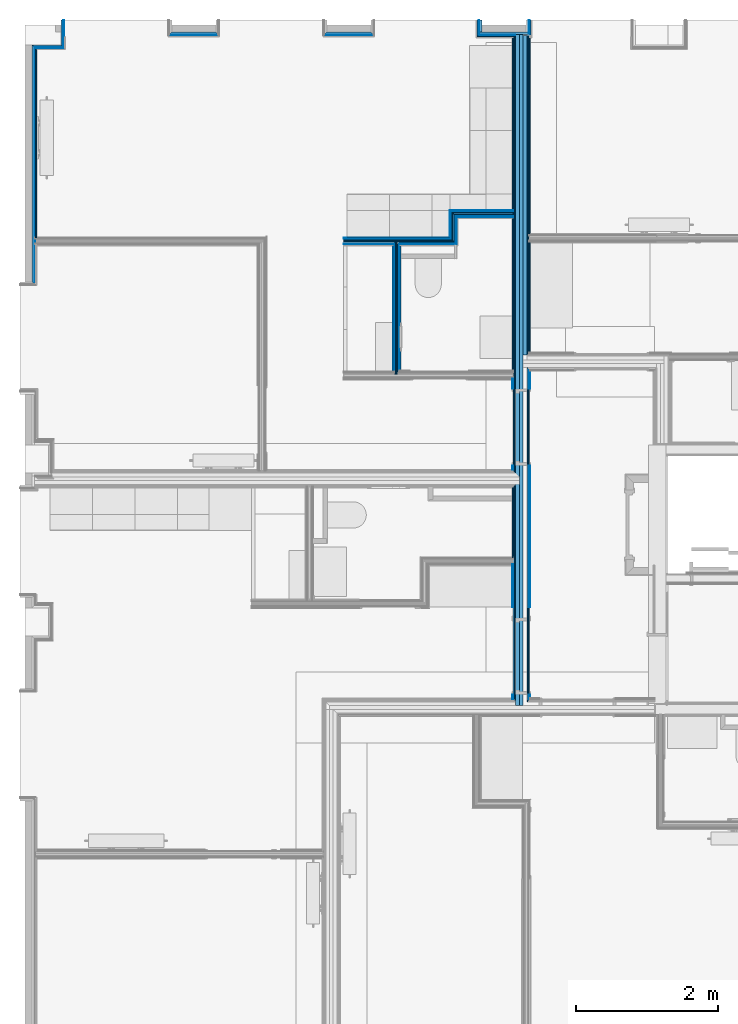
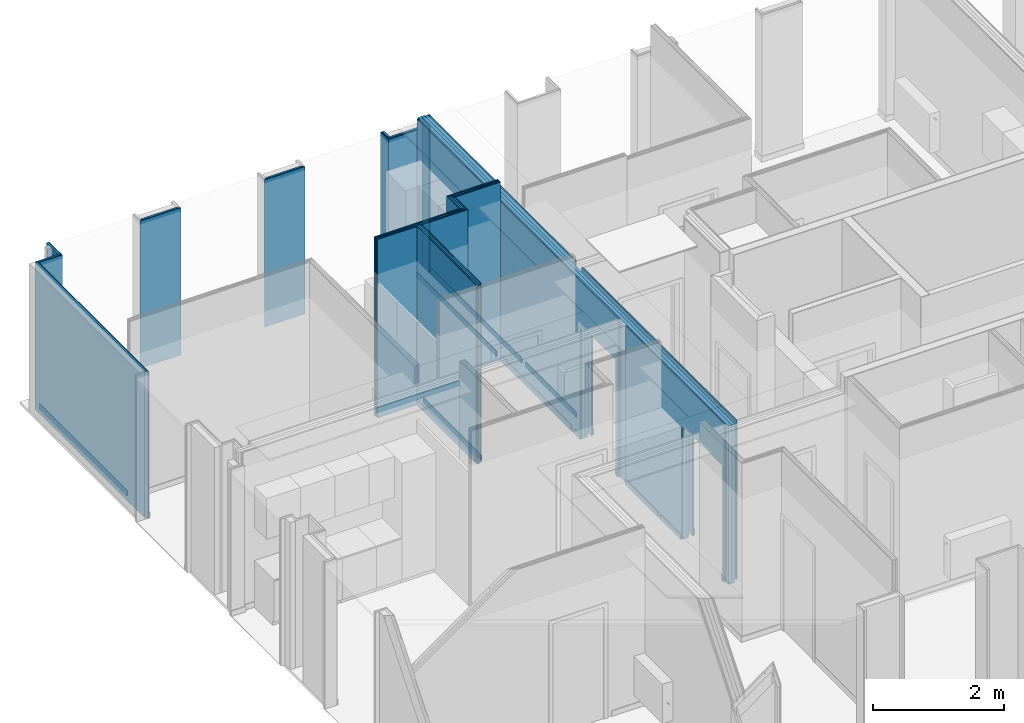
# One storey, part 17 of 65: 62 building element parts, 3 openings, 13 elements without a shape of their own.
"""IFC2X3 building model written with IfcOpenShell, lengths in metres."""

from ifc_helpers import new_model, entity, si_unit, converted_unit, derived_unit, money_unit, direction, frame, frame_2d, origin_with_axes, place, context, subcontext, project, spatial, polyline, rectangle, outline, extrude, material, type_object, element, aggregate, save


model = new_model("IFC2X3")

# Units and contexts
model_context = context("Model", 3, precision=1e-05, world=origin_with_axes(), true_north=direction((0.0, 1.0)))
body_context = subcontext(model_context, "Body", "Model", "MODEL_VIEW", scale=1.0)
ifc_project = project(units=[si_unit("LENGTHUNIT", "METRE"), si_unit("AREAUNIT", "SQUARE_METRE"), si_unit("VOLUMEUNIT", "CUBIC_METRE"), si_unit("ABSORBEDDOSEUNIT", "GRAY"), si_unit("AMOUNTOFSUBSTANCEUNIT", "MOLE"), si_unit("DOSEEQUIVALENTUNIT", "SIEVERT"), si_unit("ELECTRICCAPACITANCEUNIT", "FARAD"), si_unit("ELECTRICCHARGEUNIT", "COULOMB"), si_unit("ELECTRICCONDUCTANCEUNIT", "SIEMENS"), si_unit("ELECTRICCURRENTUNIT", "AMPERE"), si_unit("ELECTRICRESISTANCEUNIT", "OHM"), si_unit("ELECTRICVOLTAGEUNIT", "VOLT"), si_unit("ENERGYUNIT", "JOULE"), si_unit("FORCEUNIT", "NEWTON"), si_unit("FREQUENCYUNIT", "HERTZ"), si_unit("ILLUMINANCEUNIT", "LUX"), si_unit("INDUCTANCEUNIT", "HENRY"), si_unit("LUMINOUSFLUXUNIT", "LUMEN"), si_unit("LUMINOUSINTENSITYUNIT", "CANDELA"), si_unit("MAGNETICFLUXDENSITYUNIT", "TESLA"), si_unit("MAGNETICFLUXUNIT", "WEBER"), si_unit("MASSUNIT", "GRAM"), converted_unit("PLANEANGLEUNIT", "degree", entity("IfcReal", 0.0174532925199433), si_unit("PLANEANGLEUNIT", "RADIAN"), dimensions=[0, 0, 0, 0, 0, 0, 0]), si_unit("POWERUNIT", "WATT"), si_unit("PRESSUREUNIT", "PASCAL"), si_unit("RADIOACTIVITYUNIT", "BECQUEREL"), si_unit("SOLIDANGLEUNIT", "STERADIAN"), si_unit("THERMODYNAMICTEMPERATUREUNIT", "KELVIN"), si_unit("TIMEUNIT", "SECOND"), derived_unit("ACCELERATIONUNIT", [(si_unit("LENGTHUNIT", "METRE"), 1), (si_unit("TIMEUNIT", "SECOND"), -2)]), derived_unit("ANGULARVELOCITYUNIT", [(converted_unit("PLANEANGLEUNIT", "degree", entity("IfcReal", 0.0174532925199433), si_unit("PLANEANGLEUNIT", "RADIAN"), dimensions=[0, 0, 0, 0, 0, 0, 0]), 1), (si_unit("TIMEUNIT", "SECOND"), -1)]), derived_unit("CURVATUREUNIT", [(converted_unit("PLANEANGLEUNIT", "degree", entity("IfcReal", 0.0174532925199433), si_unit("PLANEANGLEUNIT", "RADIAN"), dimensions=[0, 0, 0, 0, 0, 0, 0]), 1), (si_unit("LENGTHUNIT", "METRE"), -1)]), derived_unit("DYNAMICVISCOSITYUNIT", [(si_unit("PRESSUREUNIT", "PASCAL"), 1), (si_unit("TIMEUNIT", "SECOND"), 1)]), derived_unit("HEATFLUXDENSITYUNIT", [(si_unit("POWERUNIT", "WATT"), 1), (si_unit("LENGTHUNIT", "METRE"), -2)]), derived_unit("HEATINGVALUEUNIT", [(si_unit("ENERGYUNIT", "JOULE"), 1), (si_unit("MASSUNIT", "GRAM"), -1)]), derived_unit("INTEGERCOUNTRATEUNIT", [(si_unit("TIMEUNIT", "SECOND"), -1)]), derived_unit("IONCONCENTRATIONUNIT", [(si_unit("MASSUNIT", "GRAM"), 1), (si_unit("VOLUMEUNIT", "CUBIC_METRE"), -1)]), derived_unit("ISOTHERMALMOISTURECAPACITYUNIT", [(si_unit("VOLUMEUNIT", "CUBIC_METRE"), 1), (si_unit("MASSUNIT", "GRAM"), -1)]), derived_unit("KINEMATICVISCOSITYUNIT", [(si_unit("AREAUNIT", "SQUARE_METRE"), 1), (si_unit("TIMEUNIT", "SECOND"), -1)]), derived_unit("LINEARFORCEUNIT", [(si_unit("FORCEUNIT", "NEWTON"), 1), (si_unit("LENGTHUNIT", "METRE"), -1)]), derived_unit("LINEARMOMENTUNIT", [(si_unit("FORCEUNIT", "NEWTON"), 1), (si_unit("LENGTHUNIT", "METRE"), -1)]), derived_unit("LINEARSTIFFNESSUNIT", [(si_unit("FORCEUNIT", "NEWTON"), 1), (si_unit("LENGTHUNIT", "METRE"), -1)]), derived_unit("LINEARVELOCITYUNIT", [(si_unit("LENGTHUNIT", "METRE"), 1), (si_unit("TIMEUNIT", "SECOND"), -1)]), derived_unit("LUMINOUSINTENSITYDISTRIBUTIONUNIT", [(si_unit("LUMINOUSINTENSITYUNIT", "CANDELA"), 1), (si_unit("LUMINOUSFLUXUNIT", "LUMEN"), -1)]), derived_unit("MASSDENSITYUNIT", [(si_unit("MASSUNIT", "GRAM"), 1), (si_unit("VOLUMEUNIT", "CUBIC_METRE"), -1)]), derived_unit("MASSFLOWRATEUNIT", [(si_unit("MASSUNIT", "GRAM"), 1), (si_unit("TIMEUNIT", "SECOND"), -1)]), derived_unit("MASSPERLENGTHUNIT", [(si_unit("MASSUNIT", "GRAM"), 1), (si_unit("LENGTHUNIT", "METRE"), -1)]), derived_unit("MODULUSOFELASTICITYUNIT", [(si_unit("FORCEUNIT", "NEWTON"), 1), (si_unit("AREAUNIT", "SQUARE_METRE"), -1)]), derived_unit("MODULUSOFLINEARSUBGRADEREACTIONUNIT", [(si_unit("FORCEUNIT", "NEWTON"), 1), (si_unit("LENGTHUNIT", "METRE"), -2)]), derived_unit("MODULUSOFROTATIONALSUBGRADEREACTIONUNIT", [(si_unit("FORCEUNIT", "NEWTON"), 1), (si_unit("LENGTHUNIT", "METRE"), 1)]), derived_unit("MODULUSOFSUBGRADEREACTIONUNIT", [(si_unit("FORCEUNIT", "NEWTON"), 1), (si_unit("VOLUMEUNIT", "CUBIC_METRE"), -1)]), derived_unit("MOISTUREDIFFUSIVITYUNIT", [(si_unit("VOLUMEUNIT", "CUBIC_METRE"), 1), (si_unit("TIMEUNIT", "SECOND"), -1)]), derived_unit("MOLECULARWEIGHTUNIT", [(si_unit("MASSUNIT", "GRAM"), 1), (si_unit("AMOUNTOFSUBSTANCEUNIT", "MOLE"), -1)]), derived_unit("PLANARFORCEUNIT", [(si_unit("FORCEUNIT", "NEWTON"), 1), (si_unit("LENGTHUNIT", "METRE"), -2)]), derived_unit("ROTATIONALFREQUENCYUNIT", [(si_unit("TIMEUNIT", "SECOND"), -1)]), derived_unit("ROTATIONALMASSUNIT", [(si_unit("MASSUNIT", "GRAM"), 1), (si_unit("LENGTHUNIT", "METRE"), 2)]), derived_unit("ROTATIONALSTIFFNESSUNIT", [(si_unit("FORCEUNIT", "NEWTON"), 1), (si_unit("LENGTHUNIT", "METRE"), 1), (converted_unit("PLANEANGLEUNIT", "degree", entity("IfcReal", 0.0174532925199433), si_unit("PLANEANGLEUNIT", "RADIAN"), dimensions=[0, 0, 0, 0, 0, 0, 0]), -1)]), derived_unit("SECTIONAREAINTEGRALUNIT", [(si_unit("LENGTHUNIT", "METRE"), 5)]), derived_unit("SECTIONMODULUSUNIT", [(si_unit("LENGTHUNIT", "METRE"), 3)]), derived_unit("SHEARMODULUSUNIT", [(si_unit("FORCEUNIT", "NEWTON"), 1), (si_unit("AREAUNIT", "SQUARE_METRE"), -1)]), derived_unit("SOUNDPOWERUNIT", [(si_unit("ENERGYUNIT", "JOULE"), 1), (si_unit("TIMEUNIT", "SECOND"), -1)]), derived_unit("SPECIFICHEATCAPACITYUNIT", [(si_unit("FORCEUNIT", "NEWTON"), 1), (si_unit("MASSUNIT", "GRAM"), -1), (si_unit("THERMODYNAMICTEMPERATUREUNIT", "KELVIN"), -1)]), derived_unit("TEMPERATUREGRADIENTUNIT", [(si_unit("THERMODYNAMICTEMPERATUREUNIT", "KELVIN"), 1), (si_unit("LENGTHUNIT", "METRE"), -1)]), derived_unit("THERMALADMITTANCEUNIT", [(si_unit("POWERUNIT", "WATT"), 1), (si_unit("AREAUNIT", "SQUARE_METRE"), -1), (si_unit("THERMODYNAMICTEMPERATUREUNIT", "KELVIN"), -1)]), derived_unit("THERMALCONDUCTANCEUNIT", [(si_unit("POWERUNIT", "WATT"), 1), (si_unit("LENGTHUNIT", "METRE"), -1), (si_unit("THERMODYNAMICTEMPERATUREUNIT", "KELVIN"), -1)]), derived_unit("THERMALEXPANSIONCOEFFICIENTUNIT", [(si_unit("THERMODYNAMICTEMPERATUREUNIT", "KELVIN"), -1)]), derived_unit("THERMALRESISTANCEUNIT", [(si_unit("AREAUNIT", "SQUARE_METRE"), 1), (si_unit("POWERUNIT", "WATT"), -1)]), derived_unit("THERMALTRANSMITTANCEUNIT", [(si_unit("POWERUNIT", "WATT"), 1), (si_unit("AREAUNIT", "SQUARE_METRE"), -1), (si_unit("THERMODYNAMICTEMPERATUREUNIT", "KELVIN"), -1)]), derived_unit("TORQUEUNIT", [(si_unit("FORCEUNIT", "NEWTON"), 1), (si_unit("LENGTHUNIT", "METRE"), 1)]), derived_unit("VAPORPERMEABILITYUNIT", [(si_unit("MASSUNIT", "GRAM"), 1), (si_unit("TIMEUNIT", "SECOND"), -1)]), derived_unit("VOLUMETRICFLOWRATEUNIT", [(si_unit("VOLUMEUNIT", "CUBIC_METRE"), 1), (si_unit("TIMEUNIT", "SECOND"), -1)]), derived_unit("WARPINGCONSTANTUNIT", [(si_unit("LENGTHUNIT", "METRE"), 6)]), derived_unit("WARPINGMOMENTUNIT", [(si_unit("FORCEUNIT", "NEWTON"), 1), (si_unit("LENGTHUNIT", "METRE"), 2)]), money_unit("GBP")], contexts=[model_context])

# Site, building, storey
site_placement = place(None, origin_with_axes())
site = spatial("IfcSite", under=ifc_project, at=site_placement, Name="Site", CompositionType="ELEMENT")
building_placement = place(site_placement, origin_with_axes())
building = spatial("IfcBuilding", under=site, at=building_placement, Name="Building01", CompositionType="ELEMENT")
storey_placement = place(building_placement, frame((0.0, 0.0, 8.64), z_axis=(0.0, 0.0, 1.0), x_axis=(1.0, 0.0, 0.0)))
storey = spatial("IfcBuildingStorey", under=building, at=storey_placement, Name="2F", CompositionType="ELEMENT", Elevation=8.64)

# Wall, building element parts
wall_type_1 = type_object("IfcWallType", Name="SHE_A-Walls_Type06d_ExternalWallInsulation_48mm", PredefinedType="NOTDEFINED")
wall_1_placement = place(storey_placement, frame((0.677, 14.8, 0.0), z_axis=(0.0, 0.0, 1.0), x_axis=(0.0, -1.0, 0.0)))
wall_1 = element("IfcWall", 1, at=wall_1_placement, inside=storey, type_object=wall_type_1, Name="6D", ObjectType="SHE_A-Walls_Type06d_ExternalWallInsulation_48mm")
ifc_material_1 = material(Name="A_BSUK_Insulation")
placement_1 = place(wall_1_placement, origin_with_axes())
building_element_part_1 = element("IfcBuildingElementPart", 2, at=placement_1, material=ifc_material_1, Name="1", context=body_context, shape_type="SweptSolid", body=[
    extrude(outline(polyline([(0.386, 0.036), (0.0, 0.036), (0.0, 0.0), (0.35, 0.0), (0.386, 0.036)])), origin_with_axes(), (0.0, 0.0, 1.0), 2.74),
])
ifc_material_2 = material(Name="A_BSUK_WallInternal_Finishes_Plasterboard")
building_element_part_2 = element("IfcBuildingElementPart", 3, at=placement_1, material=ifc_material_2, Name="2", context=body_context, shape_type="SweptSolid", body=[
    extrude(outline(polyline([(0.398, 0.048), (0.0, 0.048), (0.0, 0.035), (0.385, 0.035), (0.398, 0.048)])), origin_with_axes(), (0.0, 0.0, 1.0), 2.74),
])
aggregate(wall_1, [building_element_part_1, building_element_part_2])

wall_2_placement = place(storey_placement, frame((0.677, 14.45, 0.0), z_axis=(0.0, 0.0, 1.0), x_axis=(-1.0, 0.0, 0.0)))
wall_2 = element("IfcWall", 4, at=wall_2_placement, inside=storey, type_object=wall_type_1, Name="6D", ObjectType="SHE_A-Walls_Type06d_ExternalWallInsulation_48mm")
placement_2 = place(wall_2_placement, origin_with_axes())
building_element_part_3 = element("IfcBuildingElementPart", 5, at=placement_2, material=ifc_material_1, Name="1", context=body_context, shape_type="SweptSolid", body=[
    extrude(outline(polyline([(0.371, 0.036), (-0.036, 0.036), (0.0, 0.0), (0.407, 0.0), (0.371, 0.036)])), origin_with_axes(), (0.0, 0.0, 1.0), 2.74),
])
building_element_part_4 = element("IfcBuildingElementPart", 6, at=placement_2, material=ifc_material_2, Name="2", context=body_context, shape_type="SweptSolid", body=[
    extrude(outline(polyline([(0.359, 0.048), (-0.048, 0.048), (-0.035, 0.035), (0.372, 0.035), (0.359, 0.048)])), origin_with_axes(), (0.0, 0.0, 1.0), 2.74),
])
aggregate(wall_2, [building_element_part_3, building_element_part_4])

wall_3_placement = place(storey_placement, frame((2.867, 14.63, 0.0), z_axis=(0.0, 0.0, 1.0), x_axis=(-1.0, 0.0, 0.0)))
wall_3 = element("IfcWall", 7, at=wall_3_placement, inside=storey, type_object=wall_type_1, Name="6D", ObjectType="SHE_A-Walls_Type06d_ExternalWallInsulation_48mm")
placement_3 = place(wall_3_placement, origin_with_axes())
building_element_part_5 = element("IfcBuildingElementPart", 8, at=placement_3, material=ifc_material_1, Name="1", context=body_context, shape_type="SweptSolid", body=[
    extrude(outline(polyline([(0.66, 0.036), (-0.036, 0.036), (0.0, 0.0), (0.624, 0.0), (0.66, 0.036)])), origin_with_axes(), (0.0, 0.0, 1.0), 2.74),
])
building_element_part_6 = element("IfcBuildingElementPart", 9, at=placement_3, material=ifc_material_2, Name="2", context=body_context, shape_type="SweptSolid", body=[
    extrude(outline(polyline([(0.672, 0.048), (-0.048, 0.048), (-0.035, 0.035), (0.659, 0.035), (0.672, 0.048)])), origin_with_axes(), (0.0, 0.0, 1.0), 2.74),
])
aggregate(wall_3, [building_element_part_5, building_element_part_6])

wall_4_placement = place(storey_placement, frame((5.057, 14.63, 0.0), z_axis=(0.0, 0.0, 1.0), x_axis=(-1.0, 0.0, 0.0)))
wall_4 = element("IfcWall", 10, at=wall_4_placement, inside=storey, type_object=wall_type_1, Name="6D", ObjectType="SHE_A-Walls_Type06d_ExternalWallInsulation_48mm")
placement_4 = place(wall_4_placement, origin_with_axes())
building_element_part_7 = element("IfcBuildingElementPart", 11, at=placement_4, material=ifc_material_1, Name="1", context=body_context, shape_type="SweptSolid", body=[
    extrude(outline(polyline([(0.66, 0.036), (-0.036, 0.036), (0.0, 0.0), (0.624, 0.0), (0.66, 0.036)])), origin_with_axes(), (0.0, 0.0, 1.0), 2.74),
])
building_element_part_8 = element("IfcBuildingElementPart", 12, at=placement_4, material=ifc_material_2, Name="2", context=body_context, shape_type="SweptSolid", body=[
    extrude(outline(polyline([(0.672, 0.048), (-0.048, 0.048), (-0.035, 0.035), (0.659, 0.035), (0.672, 0.048)])), origin_with_axes(), (0.0, 0.0, 1.0), 2.74),
])
aggregate(wall_4, [building_element_part_7, building_element_part_8])

wall_5_placement = place(storey_placement, frame((0.27, 14.45, 0.0), z_axis=(0.0, 0.0, 1.0), x_axis=(0.0, -1.0, 0.0)))
wall_5 = element("IfcWall", 13, at=wall_5_placement, inside=storey, type_object=wall_type_1, Name="6D", ObjectType="SHE_A-Walls_Type06d_ExternalWallInsulation_48mm")
placement_5 = place(wall_5_placement, origin_with_axes())
building_element_part_9 = element("IfcBuildingElementPart", 14, at=placement_5, material=ifc_material_1, Name="1", context=body_context, shape_type="SweptSolid", body=[
    extrude(outline(polyline([(3.383, 0.036), (0.036, 0.036), (0.0, 0.0), (3.347, 0.0), (3.383, 0.036)])), origin_with_axes(), (0.0, 0.0, 1.0), 2.74),
])
building_element_part_10 = element("IfcBuildingElementPart", 15, at=placement_5, material=ifc_material_2, Name="2", context=body_context, shape_type="SweptSolid", body=[
    extrude(outline(polyline([(3.395, 0.048), (0.048, 0.048), (0.035, 0.035), (3.382, 0.035), (3.395, 0.048)])), origin_with_axes(), (0.0, 0.0, 1.0), 2.74),
])
ifc_material_3 = material(Name="A_BSUK_Walls_Timber")
building_element_part_11 = element("IfcBuildingElementPart", 16, at=placement_5, material=ifc_material_3, Name="3", context=body_context, shape_type="SweptSolid", body=[
    extrude(outline(polyline([(2.72433, 0.063), (0.063, 0.063), (0.048, 0.048), (2.72433, 0.048), (2.72433, 0.063)])), frame((0.0, 0.0, 0.015), z_axis=(0.0, 0.0, 1.0), x_axis=(1.0, 0.0, 0.0)), (0.0, 0.0, 1.0), 0.1),
])
aggregate(wall_5, [building_element_part_9, building_element_part_10, building_element_part_11])

wall_type_2 = type_object("IfcWallType", Name="SHE_A-Walls_Type05a_Partition_95mm_tall", PredefinedType="NOTDEFINED")
wall_6_placement = place(storey_placement, frame((6.229669, 11.66567, 0.0), z_axis=(0.0, 0.0, 1.0), x_axis=(0.0, 1.0, 0.0)))
wall_6 = element("IfcWall", 17, at=wall_6_placement, inside=storey, type_object=wall_type_2, Name="5A", ObjectType="SHE_A-Walls_Type05a_Partition_95mm_tall")
placement_6 = place(wall_6_placement, origin_with_axes())
building_element_part_12 = element("IfcBuildingElementPart", 18, at=placement_6, material=ifc_material_2, Name="2", context=body_context, shape_type="SweptSolid", body=[
    extrude(outline(polyline([(0.35, -0.023), (-0.023, -0.023), (-0.035, -0.035), (0.35, -0.035), (0.35, -0.023)])), origin_with_axes(), (0.0, 0.0, 1.0), 3.32),
])
ifc_material_4 = material(Name="Air Cavity")
building_element_part_13 = element("IfcBuildingElementPart", 19, at=placement_6, material=ifc_material_4, Name="3", context=body_context, shape_type="SweptSolid", body=[
    extrude(outline(polyline([(0.35, 0.0), (0.0, 0.0), (-0.023, -0.023), (0.35, -0.023), (0.35, 0.0)])), origin_with_axes(), (0.0, 0.0, 1.0), 3.32),
])
building_element_part_14 = element("IfcBuildingElementPart", 20, at=placement_6, material=ifc_material_1, Name="4", context=body_context, shape_type="SweptSolid", body=[
    extrude(outline(polyline([(0.41, 0.025), (0.025, 0.025), (0.0, 0.0), (0.385, 0.0), (0.41, 0.025)])), origin_with_axes(), (0.0, 0.0, 1.0), 3.32),
])
building_element_part_15 = element("IfcBuildingElementPart", 21, at=placement_6, material=ifc_material_4, Name="5", context=body_context, shape_type="SweptSolid", body=[
    extrude(outline(polyline([(0.433, 0.048), (0.048, 0.048), (0.025, 0.025), (0.41, 0.025), (0.433, 0.048)])), origin_with_axes(), (0.0, 0.0, 1.0), 3.32),
])
building_element_part_16 = element("IfcBuildingElementPart", 22, at=placement_6, material=ifc_material_2, Name="6", context=body_context, shape_type="SweptSolid", body=[
    extrude(outline(polyline([(0.445, 0.06), (0.06, 0.06), (0.048, 0.048), (0.433, 0.048), (0.445, 0.06)])), origin_with_axes(), (0.0, 0.0, 1.0), 3.32),
])
aggregate(wall_6, [building_element_part_12, building_element_part_13, building_element_part_14, building_element_part_15, building_element_part_16])

wall_7_placement = place(storey_placement, frame((6.229669, 12.05067, 0.0), z_axis=(0.0, 0.0, 1.0), x_axis=(1.0, 0.0, 0.0)))
wall_7 = element("IfcWall", 23, at=wall_7_placement, inside=storey, type_object=wall_type_2, Name="5A", ObjectType="SHE_A-Walls_Type05a_Partition_95mm_tall")
placement_7 = place(wall_7_placement, origin_with_axes())
building_element_part_17 = element("IfcBuildingElementPart", 24, at=placement_7, material=ifc_material_2, Name="2", context=body_context, shape_type="SweptSolid", body=[
    extrude(rectangle(XDim=0.812, YDim=0.012, at=frame_2d((0.429, -0.029), x_axis=(-1.0, 0.0))), origin_with_axes(), (0.0, 0.0, 1.0), 3.32),
])
building_element_part_18 = element("IfcBuildingElementPart", 25, at=placement_7, material=ifc_material_4, Name="3", context=body_context, shape_type="SweptSolid", body=[
    extrude(rectangle(XDim=0.812, YDim=0.023, at=frame_2d((0.429, -0.0115), x_axis=(-1.0, 0.0))), origin_with_axes(), (0.0, 0.0, 1.0), 3.32),
])
building_element_part_19 = element("IfcBuildingElementPart", 26, at=placement_7, material=ifc_material_1, Name="4", context=body_context, shape_type="SweptSolid", body=[
    extrude(outline(polyline([(0.835, 0.025), (-0.025, 0.025), (0.0, 0.0), (0.835, 0.0), (0.835, 0.025)])), origin_with_axes(), (0.0, 0.0, 1.0), 3.32),
])
building_element_part_20 = element("IfcBuildingElementPart", 27, at=placement_7, material=ifc_material_4, Name="5", context=body_context, shape_type="SweptSolid", body=[
    extrude(outline(polyline([(0.835, 0.048), (-0.048, 0.048), (-0.025, 0.025), (0.835, 0.025), (0.835, 0.048)])), origin_with_axes(), (0.0, 0.0, 1.0), 3.32),
])
building_element_part_21 = element("IfcBuildingElementPart", 28, at=placement_7, material=ifc_material_2, Name="6", context=body_context, shape_type="SweptSolid", body=[
    extrude(outline(polyline([(0.835, 0.06), (-0.06, 0.06), (-0.048, 0.048), (0.835, 0.048), (0.835, 0.06)])), origin_with_axes(), (0.0, 0.0, 1.0), 3.32),
])
aggregate(wall_7, [building_element_part_17, building_element_part_18, building_element_part_19, building_element_part_20, building_element_part_21])

wall_8_placement = place(storey_placement, frame((4.669669, 11.66567, 0.0), z_axis=(0.0, 0.0, 1.0), x_axis=(1.0, 0.0, 0.0)))
wall_8 = element("IfcWall", 29, at=wall_8_placement, inside=storey, type_object=wall_type_2, Name="5A", ObjectType="SHE_A-Walls_Type05a_Partition_95mm_tall")
placement_8 = place(wall_8_placement, origin_with_axes())
building_element_part_22 = element("IfcBuildingElementPart", 30, at=placement_8, material=ifc_material_2, Name="3", context=body_context, shape_type="SweptSolid", body=[
    extrude(rectangle(XDim=0.712, YDim=0.012, at=frame_2d((0.356, -0.029), x_axis=(-1.0, 0.0))), origin_with_axes(), (0.0, 0.0, 1.0), 3.32),
])
building_element_part_23 = element("IfcBuildingElementPart", 31, at=placement_8, material=ifc_material_2, Name="4", context=body_context, shape_type="SweptSolid", body=[
    extrude(outline(polyline([(1.583, -0.023), (0.783, -0.023), (0.783, -0.035), (1.595, -0.035), (1.583, -0.023)])), origin_with_axes(), (0.0, 0.0, 1.0), 3.32),
])
building_element_part_24 = element("IfcBuildingElementPart", 32, at=placement_8, material=ifc_material_4, Name="5", context=body_context, shape_type="SweptSolid", body=[
    extrude(outline(polyline([(1.56, 0.0), (0.783, 0.0), (0.783, -0.023), (1.583, -0.023), (1.56, 0.0)])), origin_with_axes(), (0.0, 0.0, 1.0), 3.32),
])
building_element_part_25 = element("IfcBuildingElementPart", 33, at=placement_8, material=ifc_material_1, Name="6", context=body_context, shape_type="SweptSolid", body=[
    extrude(outline(polyline([(1.535, 0.025), (0.0, 0.025), (0.0, 0.0), (1.56, 0.0), (1.535, 0.025)])), origin_with_axes(), (0.0, 0.0, 1.0), 3.32),
])
building_element_part_26 = element("IfcBuildingElementPart", 34, at=placement_8, material=ifc_material_4, Name="7", context=body_context, shape_type="SweptSolid", body=[
    extrude(outline(polyline([(1.512, 0.048), (0.0, 0.048), (0.0, 0.025), (1.535, 0.025), (1.512, 0.048)])), origin_with_axes(), (0.0, 0.0, 1.0), 3.32),
])
building_element_part_27 = element("IfcBuildingElementPart", 35, at=placement_8, material=ifc_material_2, Name="8", context=body_context, shape_type="SweptSolid", body=[
    extrude(outline(polyline([(1.5, 0.06), (0.0, 0.06), (0.0, 0.048), (1.512, 0.048), (1.5, 0.06)])), origin_with_axes(), (0.0, 0.0, 1.0), 3.32),
])
building_element_part_28 = element("IfcBuildingElementPart", 36, at=placement_8, material=ifc_material_3, Name="9", context=body_context, shape_type="SweptSolid", body=[
    extrude(outline(polyline([(1.485, 0.075), (0.05, 0.075), (0.05, 0.06), (1.5, 0.06), (1.485, 0.075)])), frame((0.0, 0.0, 0.015), z_axis=(0.0, 0.0, 1.0), x_axis=(1.0, 0.0, 0.0)), (0.0, 0.0, 1.0), 0.1),
])
aggregate(wall_8, [building_element_part_22, building_element_part_23, building_element_part_24, building_element_part_25, building_element_part_26, building_element_part_27, building_element_part_28])

wall_9_placement = place(storey_placement, frame((5.429669, 9.79567, 0.0), z_axis=(0.0, 0.0, 1.0), x_axis=(0.0, 1.0, 0.0)))
wall_9 = element("IfcWall", 37, at=wall_9_placement, inside=storey, type_object=wall_type_2, Name="5A", ObjectType="SHE_A-Walls_Type05a_Partition_95mm_tall")
placement_9 = place(wall_9_placement, origin_with_axes())
building_element_part_29 = element("IfcBuildingElementPart", 38, at=placement_9, material=ifc_material_3, Name="1", context=body_context, shape_type="SweptSolid", body=[
    extrude(rectangle(XDim=1.77, YDim=0.015, at=frame_2d((0.935, -0.0425), x_axis=(-1.0, 0.0))), frame((0.0, 0.0, 0.015), z_axis=(0.0, 0.0, 1.0), x_axis=(1.0, 0.0, 0.0)), (0.0, 0.0, 1.0), 0.1),
])
building_element_part_30 = element("IfcBuildingElementPart", 39, at=placement_9, material=ifc_material_2, Name="2", context=body_context, shape_type="SweptSolid", body=[
    extrude(rectangle(XDim=1.8, YDim=0.012, at=frame_2d((0.935, -0.029), x_axis=(-1.0, 0.0))), origin_with_axes(), (0.0, 0.0, 1.0), 3.32),
])
building_element_part_31 = element("IfcBuildingElementPart", 40, at=placement_9, material=ifc_material_4, Name="3", context=body_context, shape_type="SweptSolid", body=[
    extrude(rectangle(XDim=1.8, YDim=0.023, at=frame_2d((0.935, -0.0115), x_axis=(-1.0, 0.0))), origin_with_axes(), (0.0, 0.0, 1.0), 3.32),
])
building_element_part_32 = element("IfcBuildingElementPart", 41, at=placement_9, material=ifc_material_1, Name="4", context=body_context, shape_type="SweptSolid", body=[
    extrude(rectangle(XDim=1.87, YDim=0.025, at=frame_2d((0.935, 0.0125), x_axis=(-1.0, 0.0))), origin_with_axes(), (0.0, 0.0, 1.0), 3.32),
])
building_element_part_33 = element("IfcBuildingElementPart", 42, at=placement_9, material=ifc_material_4, Name="5", context=body_context, shape_type="SweptSolid", body=[
    extrude(rectangle(XDim=1.87, YDim=0.023, at=frame_2d((0.935, 0.0365), x_axis=(-1.0, 0.0))), origin_with_axes(), (0.0, 0.0, 1.0), 3.32),
])
building_element_part_34 = element("IfcBuildingElementPart", 43, at=placement_9, material=ifc_material_2, Name="6", context=body_context, shape_type="SweptSolid", body=[
    extrude(rectangle(XDim=1.8, YDim=0.012, at=frame_2d((0.935, 0.054), x_axis=(-1.0, 0.0))), origin_with_axes(), (0.0, 0.0, 1.0), 3.32),
])
building_element_part_35 = element("IfcBuildingElementPart", 44, at=placement_9, material=ifc_material_3, Name="7", context=body_context, shape_type="SweptSolid", body=[
    extrude(rectangle(XDim=1.77, YDim=0.015, at=frame_2d((0.935, 0.0675), x_axis=(-1.0, 0.0))), frame((0.0, 0.0, 0.015), z_axis=(0.0, 0.0, 1.0), x_axis=(1.0, 0.0, 0.0)), (0.0, 0.0, 1.0), 0.1),
])
aggregate(wall_9, [building_element_part_29, building_element_part_30, building_element_part_31, building_element_part_32, building_element_part_33, building_element_part_34, building_element_part_35])

# Wall, openings, building element parts
wall_type_3 = type_object("IfcWallType", Name="SHE_A-Walls_Type01c_Partywall_225mm_twin_tall", PredefinedType="NOTDEFINED")
wall_10_placement = place(storey_placement, frame((7.201669, 5.117, 0.0), z_axis=(0.0, 0.0, 1.0), x_axis=(0.0, 1.0, 0.0)))
wall_10 = element("IfcWall", 45, at=wall_10_placement, inside=storey, type_object=wall_type_3, Name="1C", ObjectType="SHE_A-Walls_Type01c_Partywall_225mm_twin_tall")
opening_1_placement = place(wall_10_placement, frame((0.307475, -0.103, -0.03), z_axis=(0.0, 0.0, 1.0), x_axis=(1.0, 0.0, 0.0)))
element("IfcOpeningElement", 46, at=opening_1_placement, cuts=wall_10, Name="Opening", ObjectType="Opening", context=body_context, shape_type="SweptSolid", body=[
    extrude(rectangle(XDim=1.084, YDim=2.142, at=frame_2d((-0.542, 1.071), x_axis=(-1.0, 0.0))), frame((0.0, 0.0, 0.0), z_axis=(0.0, 1.0, 0.0), x_axis=(-1.0, 0.0, 0.0)), (0.0, 0.0, 1.0), 0.255),
])
opening_2_placement = place(wall_10_placement, frame((0.157475, -0.103, 0.0), z_axis=(0.0, 0.0, 1.0), x_axis=(1.0, 0.0, 0.0)))
element("IfcOpeningElement", 47, at=opening_2_placement, cuts=wall_10, Name="Opening", ObjectType="Opening", context=body_context, shape_type="SweptSolid", body=[
    extrude(rectangle(XDim=2.142, YDim=1.084, at=frame_2d((-0.542, 1.071), x_axis=(0.0, -1.0))), frame((0.0, 0.0, 0.0), z_axis=(0.0, 1.0, 0.0), x_axis=(-1.0, 0.0, 0.0)), (0.0, 0.0, 1.0), 0.255),
])
opening_3_placement = place(wall_10_placement, frame((3.391704, -0.103, 0.0), z_axis=(0.0, 0.0, 1.0), x_axis=(1.0, 0.0, 0.0)))
element("IfcOpeningElement", 48, at=opening_3_placement, cuts=wall_10, Name="Opening", ObjectType="Opening", context=body_context, shape_type="SweptSolid", body=[
    extrude(rectangle(XDim=2.142, YDim=1.084, at=frame_2d((-0.542, 1.071), x_axis=(0.0, -1.0))), frame((0.0, 0.0, 0.0), z_axis=(0.0, 1.0, 0.0), x_axis=(-1.0, 0.0, 0.0)), (0.0, 0.0, 1.0), 0.255),
])
placement_10 = place(wall_10_placement, origin_with_axes())
building_element_part_36 = element("IfcBuildingElementPart", 49, at=placement_10, material=ifc_material_3, Name="1", context=body_context, shape_type="SweptSolid", body=[
    extrude(rectangle(XDim=4.657704, YDim=0.015, at=frame_2d((2.416852, -0.0955), x_axis=(-1.0, 0.0))), frame((0.0, 0.0, 0.015), z_axis=(0.0, 0.0, 1.0), x_axis=(1.0, 0.0, 0.0)), (0.0, 0.0, 1.0), 0.1),
])
building_element_part_37 = element("IfcBuildingElementPart", 50, at=placement_10, material=ifc_material_3, Name="2", context=body_context, shape_type="SweptSolid", body=[
    extrude(rectangle(XDim=1.56542, YDim=0.015, at=frame_2d((5.768414, -0.0955), x_axis=(-1.0, 0.0))), frame((0.0, 0.0, 0.015), z_axis=(0.0, 0.0, 1.0), x_axis=(1.0, 0.0, 0.0)), (0.0, 0.0, 1.0), 0.1),
])
building_element_part_38 = element("IfcBuildingElementPart", 51, at=placement_10, material=ifc_material_3, Name="3", context=body_context, shape_type="SweptSolid", body=[
    extrude(rectangle(XDim=2.788876, YDim=0.015, at=frame_2d((8.040562, -0.0955), x_axis=(-1.0, 0.0))), frame((0.0, 0.0, 0.015), z_axis=(0.0, 0.0, 1.0), x_axis=(1.0, 0.0, 0.0)), (0.0, 0.0, 1.0), 0.1),
])
building_element_part_39 = element("IfcBuildingElementPart", 52, at=placement_10, material=ifc_material_2, Name="4", context=body_context, shape_type="SweptSolid", body=[
    extrude(rectangle(XDim=4.687704, YDim=0.015, at=frame_2d((2.416852, -0.0805), x_axis=(-1.0, 0.0))), origin_with_axes(), (0.0, 0.0, 1.0), 2.95),
])
building_element_part_40 = element("IfcBuildingElementPart", 53, at=placement_10, material=ifc_material_2, Name="5", context=body_context, shape_type="SweptSolid", body=[
    extrude(rectangle(XDim=4.494296, YDim=0.015, at=frame_2d((7.217852, -0.0805), x_axis=(-1.0, 0.0))), origin_with_axes(), (0.0, 0.0, 1.0), 2.95),
])
building_element_part_41 = element("IfcBuildingElementPart", 54, at=placement_10, material=ifc_material_2, Name="6", context=body_context, shape_type="SweptSolid", body=[
    extrude(rectangle(XDim=4.717704, YDim=0.015, at=frame_2d((2.416852, -0.0655), x_axis=(-1.0, 0.0))), origin_with_axes(), (0.0, 0.0, 1.0), 2.95),
])
building_element_part_42 = element("IfcBuildingElementPart", 55, at=placement_10, material=ifc_material_2, Name="7", context=body_context, shape_type="SweptSolid", body=[
    extrude(rectangle(XDim=4.509296, YDim=0.015, at=frame_2d((7.210352, -0.0655), x_axis=(-1.0, 0.0))), origin_with_axes(), (0.0, 0.0, 1.0), 2.95),
])
building_element_part_43 = element("IfcBuildingElementPart", 56, at=placement_10, material=ifc_material_4, Name="8", context=body_context, shape_type="SweptSolid", body=[
    extrude(rectangle(XDim=4.509296, YDim=0.058, at=frame_2d((7.210352, -0.029), x_axis=(-1.0, 0.0))), origin_with_axes(), (0.0, 0.0, 1.0), 2.95),
])
building_element_part_44 = element("IfcBuildingElementPart", 57, at=placement_10, material=ifc_material_1, Name="9", context=body_context, shape_type="SweptSolid", body=[
    extrude(rectangle(XDim=9.477, YDim=0.05, at=frame_2d((4.7385, 0.025), x_axis=(-1.0, 0.0))), origin_with_axes(), (0.0, 0.0, 1.0), 2.95),
])
building_element_part_45 = element("IfcBuildingElementPart", 58, at=placement_10, material=ifc_material_4, Name="10", context=body_context, shape_type="SweptSolid", body=[
    extrude(rectangle(XDim=9.477, YDim=0.057, at=frame_2d((4.7385, 0.0785), x_axis=(-1.0, 0.0))), origin_with_axes(), (0.0, 0.0, 1.0), 2.95),
])
building_element_part_46 = element("IfcBuildingElementPart", 59, at=placement_10, material=ifc_material_2, Name="11", context=body_context, shape_type="SweptSolid", body=[
    extrude(rectangle(XDim=3.03567, YDim=0.015, at=frame_2d((1.590835, 0.1145), x_axis=(-1.0, 0.0))), origin_with_axes(), (0.0, 0.0, 1.0), 2.95),
])
building_element_part_47 = element("IfcBuildingElementPart", 60, at=placement_10, material=ifc_material_2, Name="12", context=body_context, shape_type="SweptSolid", body=[
    extrude(outline(polyline([(9.465, 0.122), (3.30367, 0.122), (3.28867, 0.107), (9.465, 0.107), (9.465, 0.122)])), origin_with_axes(), (0.0, 0.0, 1.0), 2.95),
])
building_element_part_48 = element("IfcBuildingElementPart", 61, at=placement_10, material=ifc_material_2, Name="13", context=body_context, shape_type="SweptSolid", body=[
    extrude(rectangle(XDim=3.00567, YDim=0.015, at=frame_2d((1.590835, 0.1295), x_axis=(-1.0, 0.0))), origin_with_axes(), (0.0, 0.0, 1.0), 2.95),
])
building_element_part_49 = element("IfcBuildingElementPart", 62, at=placement_10, material=ifc_material_2, Name="14", context=body_context, shape_type="SweptSolid", body=[
    extrude(outline(polyline([(9.45, 0.137), (3.31867, 0.137), (3.30367, 0.122), (9.45, 0.122), (9.45, 0.137)])), origin_with_axes(), (0.0, 0.0, 1.0), 2.95),
])
building_element_part_50 = element("IfcBuildingElementPart", 63, at=placement_10, material=ifc_material_3, Name="15", context=body_context, shape_type="SweptSolid", body=[
    extrude(rectangle(XDim=1.906475, YDim=0.015, at=frame_2d((1.041238, 0.1445), x_axis=(-1.0, 0.0))), frame((0.0, 0.0, 0.015), z_axis=(0.0, 0.0, 1.0), x_axis=(1.0, 0.0, 0.0)), (0.0, 0.0, 1.0), 0.1),
])
building_element_part_51 = element("IfcBuildingElementPart", 64, at=placement_10, material=ifc_material_3, Name="16", context=body_context, shape_type="SweptSolid", body=[
    extrude(rectangle(XDim=1.285, YDim=0.015, at=frame_2d((3.97617, 0.1445), x_axis=(-1.0, 0.0))), frame((0.0, 0.0, 0.015), z_axis=(0.0, 0.0, 1.0), x_axis=(1.0, 0.0, 0.0)), (0.0, 0.0, 1.0), 0.1),
])
building_element_part_52 = element("IfcBuildingElementPart", 65, at=placement_10, material=ifc_material_3, Name="17", context=body_context, shape_type="SweptSolid", body=[
    extrude(rectangle(XDim=2.44133, YDim=0.015, at=frame_2d((8.214335, 0.1445), x_axis=(-1.0, 0.0))), frame((0.0, 0.0, 0.015), z_axis=(0.0, 0.0, 1.0), x_axis=(1.0, 0.0, 0.0)), (0.0, 0.0, 1.0), 0.1),
])
building_element_part_53 = element("IfcBuildingElementPart", 66, at=placement_10, material=ifc_material_3, Name="18", context=body_context, shape_type="SweptSolid", body=[
    extrude(rectangle(XDim=2.155, YDim=0.015, at=frame_2d((5.80617, 0.1445), x_axis=(-1.0, 0.0))), frame((0.0, 0.0, 0.015), z_axis=(0.0, 0.0, 1.0), x_axis=(1.0, 0.0, 0.0)), (0.0, 0.0, 1.0), 0.1),
])
building_element_part_54 = element("IfcBuildingElementPart", 67, at=placement_10, material=ifc_material_3, Name="19", context=body_context, shape_type="SweptSolid", body=[
    extrude(rectangle(XDim=0.989195, YDim=0.015, at=frame_2d((2.584072, 0.1445), x_axis=(-1.0, 0.0))), frame((0.0, 0.0, 0.015), z_axis=(0.0, 0.0, 1.0), x_axis=(1.0, 0.0, 0.0)), (0.0, 0.0, 1.0), 0.1),
])
aggregate(wall_10, [building_element_part_36, building_element_part_37, building_element_part_38, building_element_part_39, building_element_part_40, building_element_part_41, building_element_part_42, building_element_part_43, building_element_part_44, building_element_part_45, building_element_part_46, building_element_part_47, building_element_part_48, building_element_part_49, building_element_part_50, building_element_part_51, building_element_part_52, building_element_part_53, building_element_part_54])

# Wall, building element parts
wall_type_4 = type_object("IfcWallType", Name="SHE_A-Walls_Type06f_ExternalWallInsulation_48+15mm", PredefinedType="NOTDEFINED")
wall_11_placement = place(storey_placement, frame((7.247, 14.63, 0.0), z_axis=(0.0, 0.0, 1.0), x_axis=(0.0, 1.0, 0.0)))
wall_11 = element("IfcWall", 68, at=wall_11_placement, inside=storey, type_object=wall_type_4, Name="6F", ObjectType="SHE_A-Walls_Type06f_ExternalWallInsulation_48+15mm")
placement_11 = place(wall_11_placement, origin_with_axes())
building_element_part_55 = element("IfcBuildingElementPart", 69, at=placement_11, material=ifc_material_2, Name="2", context=body_context, shape_type="SweptSolid", body=[
    extrude(rectangle(XDim=0.218, YDim=0.015, at=frame_2d((0.061, -0.0555), x_axis=(-1.0, 0.0))), origin_with_axes(), (0.0, 0.0, 1.0), 2.74),
])
building_element_part_56 = element("IfcBuildingElementPart", 70, at=placement_11, material=ifc_material_2, Name="3", context=body_context, shape_type="SweptSolid", body=[
    extrude(rectangle(XDim=0.218, YDim=0.012, at=frame_2d((0.061, -0.042), x_axis=(-1.0, 0.0))), origin_with_axes(), (0.0, 0.0, 1.0), 2.74),
])
aggregate(wall_11, [building_element_part_55, building_element_part_56])

wall_12_placement = place(storey_placement, frame((6.622876, 14.63, 0.0), z_axis=(0.0, 0.0, 1.0), x_axis=(0.0, 1.0, 0.0)))
wall_12 = element("IfcWall", 71, at=wall_12_placement, inside=storey, type_object=wall_type_4, Name="6F", ObjectType="SHE_A-Walls_Type06f_ExternalWallInsulation_48+15mm")
placement_12 = place(wall_12_placement, origin_with_axes())
building_element_part_57 = element("IfcBuildingElementPart", 72, at=placement_12, material=ifc_material_1, Name="1", context=body_context, shape_type="SweptSolid", body=[
    extrude(rectangle(XDim=0.17, YDim=0.036, at=frame_2d((0.085, 0.018), x_axis=(-1.0, 0.0))), origin_with_axes(), (0.0, 0.0, 1.0), 2.74),
])
building_element_part_58 = element("IfcBuildingElementPart", 73, at=placement_12, material=ifc_material_2, Name="2", context=body_context, shape_type="SweptSolid", body=[
    extrude(rectangle(XDim=0.206, YDim=0.012, at=frame_2d((0.067, 0.042), x_axis=(-1.0, 0.0))), origin_with_axes(), (0.0, 0.0, 1.0), 2.74),
])
building_element_part_59 = element("IfcBuildingElementPart", 74, at=placement_12, material=ifc_material_2, Name="3", context=body_context, shape_type="SweptSolid", body=[
    extrude(outline(polyline([(0.17, 0.063), (-0.063, 0.063), (-0.048, 0.048), (0.17, 0.048), (0.17, 0.063)])), origin_with_axes(), (0.0, 0.0, 1.0), 2.74),
])
aggregate(wall_12, [building_element_part_57, building_element_part_58, building_element_part_59])

wall_13_placement = place(storey_placement, frame((7.283, 14.63, 0.0), z_axis=(0.0, 0.0, 1.0), x_axis=(-1.0, 0.0, 0.0)))
wall_13 = element("IfcWall", 75, at=wall_13_placement, inside=storey, type_object=wall_type_4, Name="6F", ObjectType="SHE_A-Walls_Type06f_ExternalWallInsulation_48+15mm")
placement_13 = place(wall_13_placement, origin_with_axes())
building_element_part_60 = element("IfcBuildingElementPart", 76, at=placement_13, material=ifc_material_1, Name="1", context=body_context, shape_type="SweptSolid", body=[
    extrude(rectangle(XDim=0.696124, YDim=0.036, at=frame_2d((0.348062, 0.018), x_axis=(-1.0, 0.0))), origin_with_axes(), (0.0, 0.0, 1.0), 2.74),
])
building_element_part_61 = element("IfcBuildingElementPart", 77, at=placement_13, material=ifc_material_2, Name="3", context=body_context, shape_type="SweptSolid", body=[
    extrude(rectangle(XDim=0.519793, YDim=0.012, at=frame_2d((0.448228, 0.042), x_axis=(-1.0, 0.0))), origin_with_axes(), (0.0, 0.0, 1.0), 2.74),
])
building_element_part_62 = element("IfcBuildingElementPart", 78, at=placement_13, material=ifc_material_2, Name="5", context=body_context, shape_type="SweptSolid", body=[
    extrude(outline(polyline([(0.723124, 0.063), (0.203331, 0.063), (0.203331, 0.048), (0.708124, 0.048), (0.723124, 0.063)])), origin_with_axes(), (0.0, 0.0, 1.0), 2.74),
])
aggregate(wall_13, [building_element_part_60, building_element_part_61, building_element_part_62])

save(model, "model.ifc")
